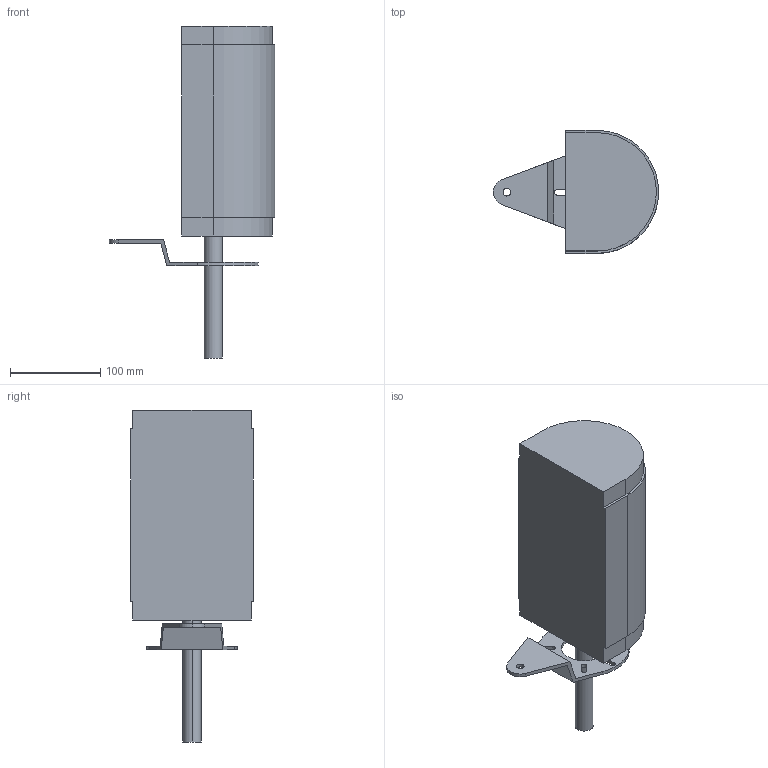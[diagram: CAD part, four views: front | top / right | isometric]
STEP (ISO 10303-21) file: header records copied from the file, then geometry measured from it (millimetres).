
FILE_DESCRIPTION (( 'STEP AP214' ), '1' );
FILE_NAME ('FS-MTC-150 230 links ra.STEP', '2017-12-21T09:26:22', ( '' ), ( '' ), 'SwSTEP 2.0', 'SolidWorks 2017', '' );
FILE_SCHEMA (( 'AUTOMOTIVE_DESIGN' ));
Length unit declared in the file: millimetre
Products named in the file (1): FS-MTC-150 230 links ra
Bounding box: 183 x 136 x 367.5 mm (x, y, z)
Volume: 2847393.8 mm3; surface area: 152797 mm2
Topology: 2 solids, 2 shells, 70 faces, 195 edges, 130 vertices
Faces by surface type: plane 36, cylinder 34
Entity records: 2350 total; most frequent: DIRECTION 405, CARTESIAN_POINT 396, ORIENTED_EDGE 390, EDGE_CURVE 195, AXIS2_PLACEMENT_3D 139, VERTEX_POINT 130, VECTOR 127, LINE 127
